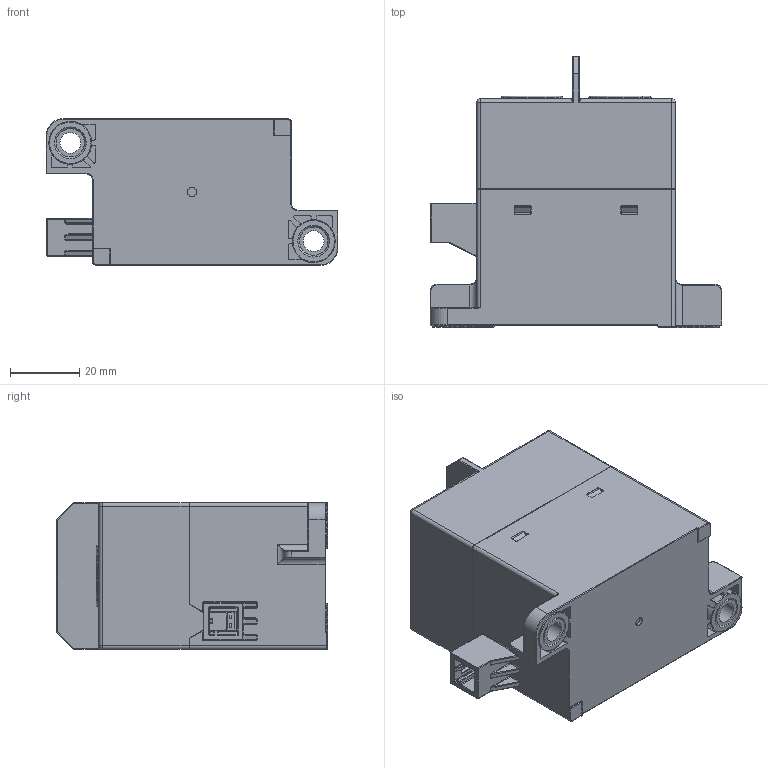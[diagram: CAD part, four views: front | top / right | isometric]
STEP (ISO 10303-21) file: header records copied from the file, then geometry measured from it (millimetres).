
FILE_DESCRIPTION((''),'2;1');
FILE_NAME('PRT0002','2026-04-15T10:09:55',('Administrator'),(''),'CREO PARAMETRIC BY PTC INC, 2019010','CREO PARAMETRIC BY PTC INC, 2019010','');
FILE_SCHEMA(('CONFIG_CONTROL_DESIGN'));
Length unit declared in the file: millimetre
Products named in the file (1): PRT0002
Bounding box: 84.5 x 78.5 x 42.5 mm (x, y, z)
Volume: 163600.2 mm3; surface area: 23786.4 mm2
Topology: 1 solids, 1 shells, 611 faces, 1566 edges, 933 vertices
Faces by surface type: cylinder 264, plane 225, torus 50, sphere 26, cone 24, bspline 22
Entity records: 20631 total; most frequent: CARTESIAN_POINT 5884, DIRECTION 3143, ORIENTED_EDGE 3060, EDGE_CURVE 1530, AXIS2_PLACEMENT_3D 1138, VERTEX_POINT 933, VECTOR 867, LINE 867
